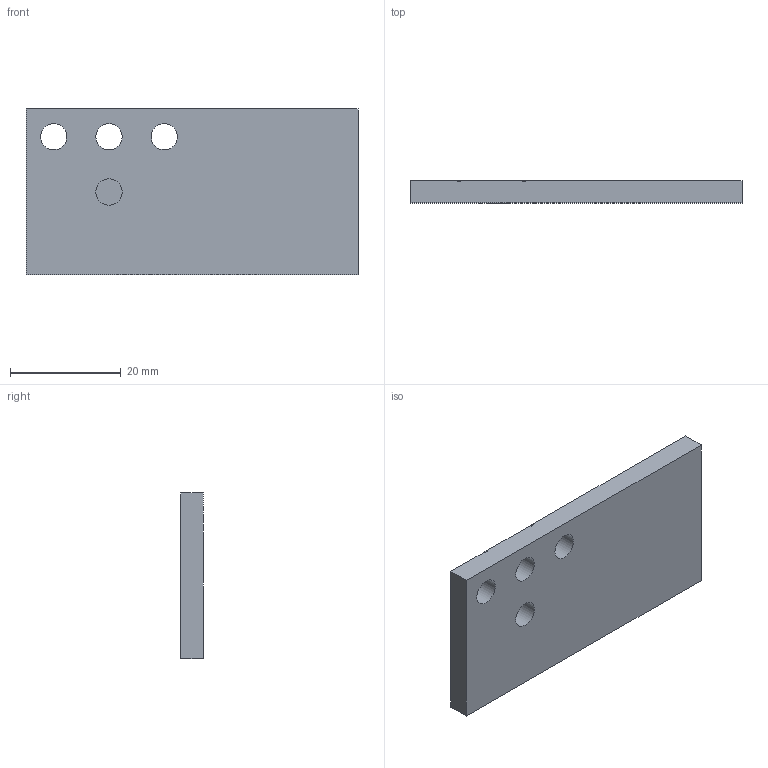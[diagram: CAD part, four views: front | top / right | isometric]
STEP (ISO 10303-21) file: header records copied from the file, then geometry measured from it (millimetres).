
FILE_DESCRIPTION(/* description */ (''),/* implementation_level */ '2;1');
FILE_NAME(/* name */ '//file.canterbury.ac.nz/user/J/jme174/Home/Documents/1) Reports, Presentations etc/1) Publications/Transistor valves 2019/Supplementary information/183 Transistor valve with bubble valve v10.step',/* time_stamp */ '2020-01-14T14:58:45+13:00',/* author */ (''),/* organization */ (''),/* preprocessor_version */ 'ST-DEVELOPER v18',/* originating_system */ 'Autodesk Translation Framework v8.12.0.6',/* authorisation */ '');
FILE_SCHEMA (('AUTOMOTIVE_DESIGN { 1 0 10303 214 3 1 1 }'));
Length unit declared in the file: millimetre
Products named in the file (1): 183 Transistor valve with bubble valve
Bounding box: 60 x 4 x 30 mm (x, y, z)
Volume: 6888.4 mm3; surface area: 4624.4 mm2
Topology: 1 solids, 1 shells, 391 faces, 1144 edges, 762 vertices
Faces by surface type: plane 284, cylinder 107
Full cylindrical faces by diameter (mm): 4.75 x4
Entity records: 12949 total; most frequent: CARTESIAN_POINT 2298, ORIENTED_EDGE 2288, DIRECTION 2143, EDGE_CURVE 1144, LINE 929, VECTOR 929, VERTEX_POINT 762, AXIS2_PLACEMENT_3D 607
